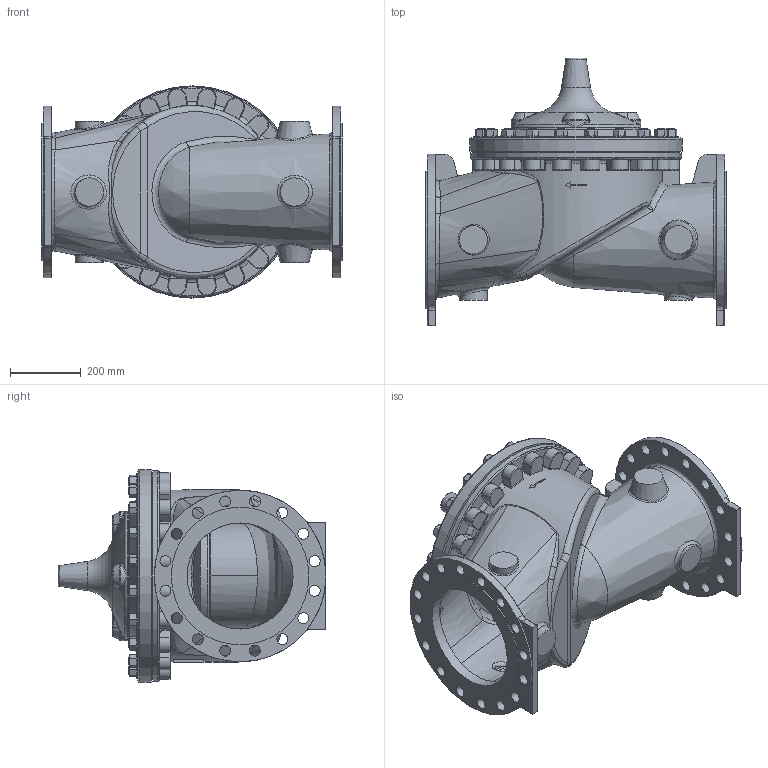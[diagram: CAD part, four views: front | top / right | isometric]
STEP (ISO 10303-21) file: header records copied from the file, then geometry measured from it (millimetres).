
FILE_DESCRIPTION(/* description */ (''),/* implementation_level */ '2;1');
FILE_NAME(/* name */ 'G:\Doc_Liberes\SymbolesCAD\Modeles_3D\FichierSTP\VanneDeBase\NGE300-25RF.stp',/* time_stamp */ '2023-08-18T11:48:29+02:00',/* author */ ('theo'),/* organization */ (''),/* preprocessor_version */ 'ST-DEVELOPER v18.1',/* originating_system */ 'Autodesk Inventor 2022',/* authorisation */ '');
FILE_SCHEMA (('AUTOMOTIVE_DESIGN { 1 0 10303 214 3 1 1 }'));
Products named in the file (1): nge300-25_Simplifier_1
Bounding box: 850 x 756.78 x 599.95 mm (x, y, z)
Volume: 37656688.5 mm3; surface area: 3976489.4 mm2
Topology: 1 solids, 2 shells, 1911 faces, 4730 edges, 2897 vertices
Faces by surface type: plane 569, cone 490, bspline 369, cylinder 312, torus 169, sphere 2
Full cylindrical faces by diameter (mm): 22.05 x40, 31 x32, 44.45 x20, 68.263 x1, 80 x3, 282.5 x1, 300 x2, 324 x1, 330.2 x1, 330.7 x1, 365.252 x1, 389 x2, 485 x2, 580.5 x1, 581.025 x1, 594 x1, 599.948 x1
Entity records: 84559 total; most frequent: CARTESIAN_POINT 42493, ORIENTED_EDGE 9436, DIRECTION 8219, EDGE_CURVE 4718, AXIS2_PLACEMENT_3D 3624, VERTEX_POINT 2896, EDGE_LOOP 2104, CIRCLE 1987
